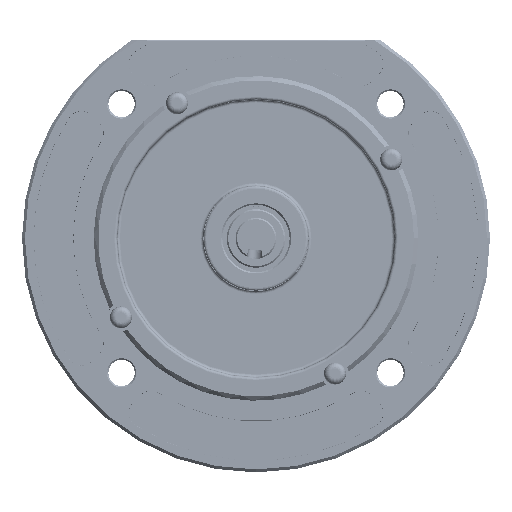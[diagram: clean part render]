
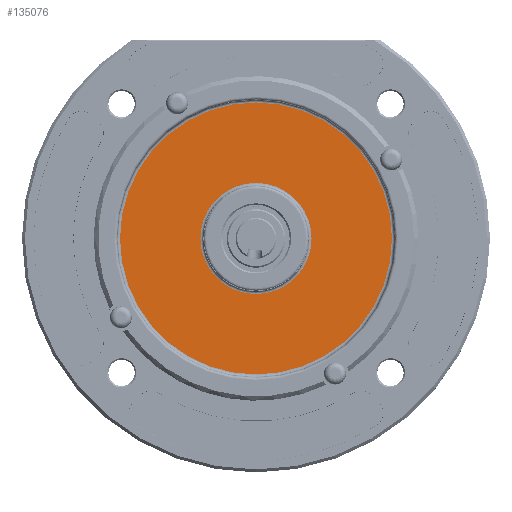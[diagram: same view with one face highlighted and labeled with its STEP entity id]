
A CAD part, top view. The second image highlights one B-rep face of the part: STEP entity #135076.
In plain terms, the highlighted planar face has unit normal (0, 0, 1).
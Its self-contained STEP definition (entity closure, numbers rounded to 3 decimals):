
#11896 = FACE_OUTER_BOUND ( 'NONE', #190953, .T. ) ;
#23766 = VERTEX_POINT ( 'NONE', #56829 ) ;
#25492 = DIRECTION ( 'NONE',  ( 1., 0., 0. ) ) ;
#29226 = FACE_BOUND ( 'NONE', #125422, .T. ) ;
#29658 = DIRECTION ( 'NONE',  ( 0., 0., 1. ) ) ;
#30755 = CIRCLE ( 'NONE', #178812, 46.5 ) ;
#31701 = CIRCLE ( 'NONE', #111801, 46.5 ) ;
#31843 = ORIENTED_EDGE ( 'NONE', *, *, #63908, .T. ) ;
#49515 = CARTESIAN_POINT ( 'NONE',  ( -46.5, 0., 6.5 ) ) ;
#56288 = PLANE ( 'NONE',  #143589 ) ;
#56829 = CARTESIAN_POINT ( 'NONE',  ( 46.5, 0., 6.5 ) ) ;
#63908 = EDGE_CURVE ( 'NONE', #103629, #135788, #102536, .T. ) ;
#65549 = AXIS2_PLACEMENT_3D ( 'NONE', #187765, #130742, #25492 ) ;
#70257 = DIRECTION ( 'NONE',  ( 1., 0., 0. ) ) ;
#72930 = DIRECTION ( 'NONE',  ( 0., 0., -1. ) ) ;
#88151 = DIRECTION ( 'NONE',  ( 0., 0., 1. ) ) ;
#99283 = CARTESIAN_POINT ( 'NONE',  ( 0., 0., 6.5 ) ) ;
#101714 = DIRECTION ( 'NONE',  ( 1., 0., 0. ) ) ;
#101798 = AXIS2_PLACEMENT_3D ( 'NONE', #172442, #72930, #145359 ) ;
#102536 = CIRCLE ( 'NONE', #65549, 19. ) ;
#103629 = VERTEX_POINT ( 'NONE', #182346 ) ;
#111801 = AXIS2_PLACEMENT_3D ( 'NONE', #182387, #129906, #156931 ) ;
#113586 = CARTESIAN_POINT ( 'NONE',  ( 19., 0., 6.5 ) ) ;
#114147 = CIRCLE ( 'NONE', #101798, 19. ) ;
#123285 = ORIENTED_EDGE ( 'NONE', *, *, #152307, .T. ) ;
#125422 = EDGE_LOOP ( 'NONE', ( #158014, #31843 ) ) ;
#129906 = DIRECTION ( 'NONE',  ( 0., 0., 1. ) ) ;
#130742 = DIRECTION ( 'NONE',  ( 0., 0., -1. ) ) ;
#135076 = ADVANCED_FACE ( 'NONE', ( #29226, #11896 ), #56288, .T. ) ;
#135788 = VERTEX_POINT ( 'NONE', #113586 ) ;
#143213 = CARTESIAN_POINT ( 'NONE',  ( 0., 0., 6.5 ) ) ;
#143589 = AXIS2_PLACEMENT_3D ( 'NONE', #143213, #88151, #101714 ) ;
#145359 = DIRECTION ( 'NONE',  ( 1., 0., 0. ) ) ;
#146902 = EDGE_CURVE ( 'NONE', #150034, #23766, #30755, .T. ) ;
#147756 = EDGE_CURVE ( 'NONE', #135788, #103629, #114147, .T. ) ;
#150034 = VERTEX_POINT ( 'NONE', #49515 ) ;
#152307 = EDGE_CURVE ( 'NONE', #23766, #150034, #31701, .T. ) ;
#156931 = DIRECTION ( 'NONE',  ( 1., 0., 0. ) ) ;
#158014 = ORIENTED_EDGE ( 'NONE', *, *, #147756, .T. ) ;
#172442 = CARTESIAN_POINT ( 'NONE',  ( 0., 0., 6.5 ) ) ;
#177237 = ORIENTED_EDGE ( 'NONE', *, *, #146902, .T. ) ;
#178812 = AXIS2_PLACEMENT_3D ( 'NONE', #99283, #29658, #70257 ) ;
#182346 = CARTESIAN_POINT ( 'NONE',  ( -19., 0., 6.5 ) ) ;
#182387 = CARTESIAN_POINT ( 'NONE',  ( 0., 0., 6.5 ) ) ;
#187765 = CARTESIAN_POINT ( 'NONE',  ( 0., 0., 6.5 ) ) ;
#190953 = EDGE_LOOP ( 'NONE', ( #123285, #177237 ) ) ;
